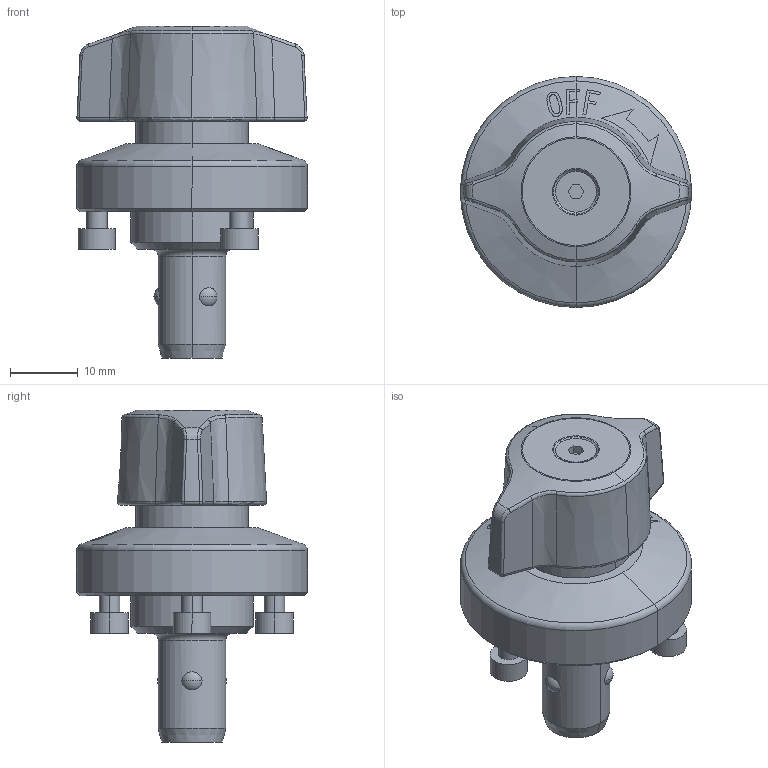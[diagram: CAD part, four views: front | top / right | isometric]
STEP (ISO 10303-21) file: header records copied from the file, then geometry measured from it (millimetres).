
FILE_DESCRIPTION (( 'STEP AP203' ), '1' );
FILE_NAME ('qcwe1034-14-sus.STEP', '2021-10-21T08:27:51', ( '' ), ( '' ), 'SwSTEP 2.0', 'SolidWorks 2020', '' );
FILE_SCHEMA (( 'CONFIG_CONTROL_DESIGN' ));
Length unit declared in the file: millimetre
Products named in the file (6): qcwe1034-14-sus_01; qcwe1034-14-sus_02; qcwe1034-14-sus_03; qcwe1034-14-sus; qcwe1034-14-sus_04; qcwe1034-14-sus_05
Assembly tree (5 placements, depth 2):
  qcwe1034-14-sus
    qcwe1034-14-sus_01
    qcwe1034-14-sus_02
    qcwe1034-14-sus_03
    qcwe1034-14-sus_04
    qcwe1034-14-sus_05
Bounding box: 34 x 34 x 48.85 mm (x, y, z)
Volume: 16843.9 mm3; surface area: 7211.2 mm2
Topology: 5 solids, 5 shells, 259 faces, 605 edges, 379 vertices
Faces by surface type: plane 91, bspline 56, cone 40, cylinder 38, torus 20, sphere 14
Entity records: 9825 total; most frequent: CARTESIAN_POINT 3713, ORIENTED_EDGE 1202, DIRECTION 1021, EDGE_CURVE 601, AXIS2_PLACEMENT_3D 403, VERTEX_POINT 379, EDGE_LOOP 286, FACE_OUTER_BOUND 259
